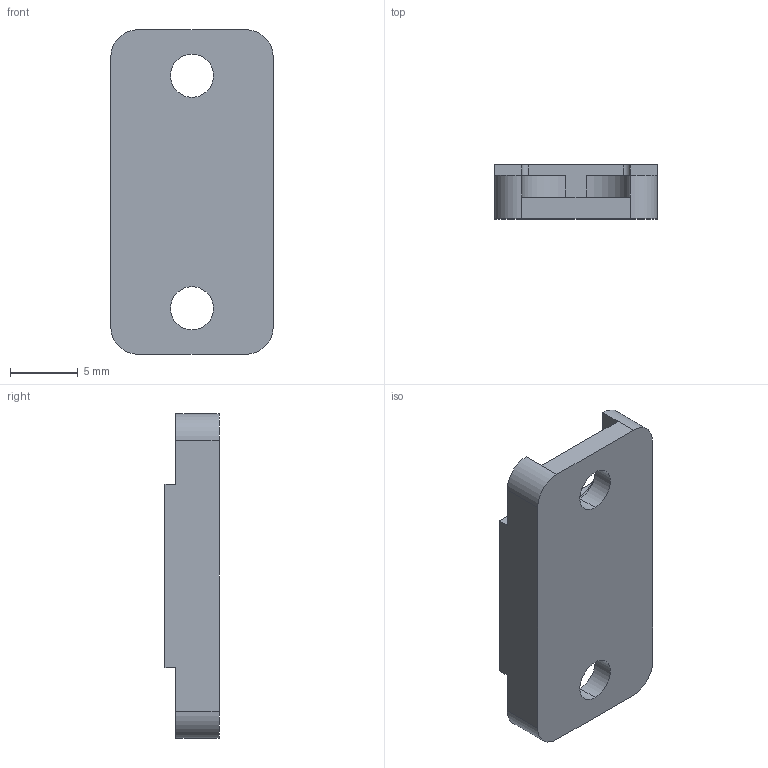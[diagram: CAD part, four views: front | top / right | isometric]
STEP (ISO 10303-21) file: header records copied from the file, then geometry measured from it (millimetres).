
FILE_DESCRIPTION (( 'STEP AP203' ), '1' );
FILE_NAME ('RF-310.STEP', '2005-09-05T04:56:01', ( '' ), ( '' ), 'SwSTEP 2.0', 'SolidWorks 2004073', '' );
FILE_SCHEMA (( 'CONFIG_CONTROL_DESIGN' ));
Length unit declared in the file: millimetre
Products named in the file (1): RF-310
Bounding box: 12 x 4 x 24 mm (x, y, z)
Volume: 693.8 mm3; surface area: 1090.3 mm2
Topology: 2 solids, 2 shells, 58 faces, 152 edges, 100 vertices
Faces by surface type: plane 42, cylinder 16
Entity records: 1859 total; most frequent: CARTESIAN_POINT 311, ORIENTED_EDGE 304, DIRECTION 302, EDGE_CURVE 152, VECTOR 120, LINE 120, VERTEX_POINT 100, AXIS2_PLACEMENT_3D 91
